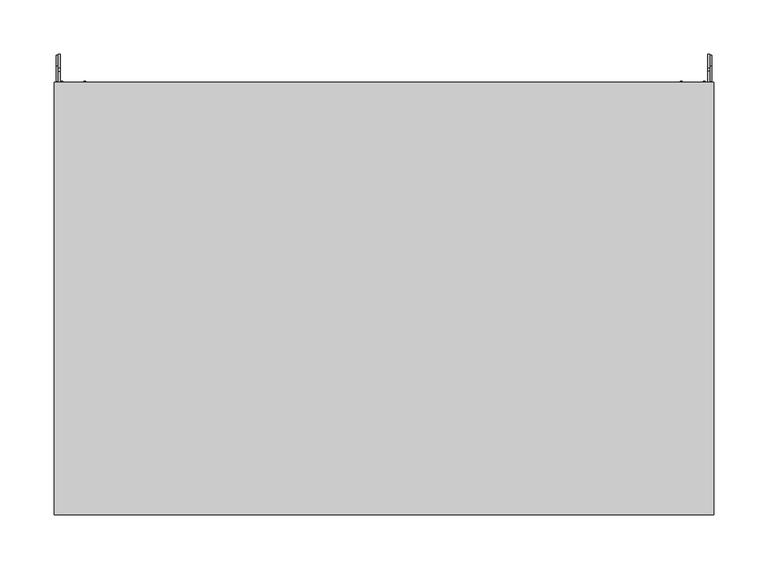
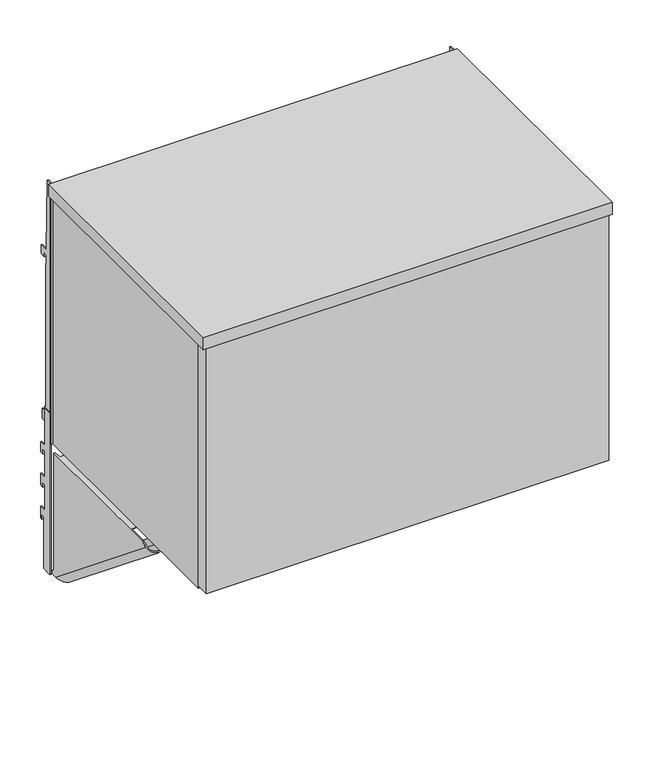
"""IFC4 building model written with IfcOpenShell, lengths in millimetres: furniture geometry, Steelcase - Universal Storage - In the Case Bin - Flat Front : For Montage - 24W."""

from ifc_helpers import new_model, si_unit, point, frame, frame_2d, origin, place, context, project, spatial, polyline, circle_curve, ellipse_curve, trimmed, segment, composite_curve, outline, extrude, faceted_brep, source, transform, mapped, element, save
from ifc_brep_helpers import plane_surface, cylinder_surface, revolved_surface, advanced_brep


def furniture_dd97acb9(model_context):
    return source(origin(), model_context, "Body", "SolidModel", [
        extrude(outline(polyline([(14.7026351, 1295.4127), (14.7026351, 1236.5862384), (24.9864881, 1236.5862384), (24.9864881, 1220.7113353), (18.8396885, 1220.7113353), (18.8396885, 1227.061311), (14.7756879, 1227.061311), (14.7756879, 1186.6498969), (24.9864881, 1186.6498969), (24.9864881, 1168.3872762), (18.8396885, 1168.3872762), (18.8396885, 1174.7373246), (14.7756879, 1174.7373246), (14.7756879, 1134.3259105), (24.9864881, 1134.3259105), (24.9864881, 1116.0632897), (21.4050888, 1116.0632897), (21.4050888, 1122.4132655), (17.3410881, 1122.4132655), (17.3410881, 1040.9809), (1.1327479, 1040.9809), (1.1327479, 1295.4127), (14.7026351, 1295.4127)])), frame((2.1844, 0.0, 0.0), z_axis=(1.0, 0.0, 0.0), x_axis=(0.0, 1.0, 0.0)), (0.0, 0.0, 1.0), 1.905),
        extrude(outline(polyline([(14.7026351, 1295.4127), (14.7026351, 1236.5862384), (24.9864881, 1236.5862384), (24.9864881, 1220.7113353), (18.8396885, 1220.7113353), (18.8396885, 1227.061311), (14.7756879, 1227.061311), (14.7756879, 1186.6498969), (24.9864881, 1186.6498969), (24.9864881, 1168.3872762), (18.8396885, 1168.3872762), (18.8396885, 1174.7373246), (14.7756879, 1174.7373246), (14.7756879, 1134.3259105), (24.9864881, 1134.3259105), (24.9864881, 1116.0632897), (21.4050888, 1116.0632897), (21.4050888, 1122.4132655), (17.3410881, 1122.4132655), (17.3410881, 1040.9809), (1.1327479, 1040.9809), (1.1327479, 1295.4127), (14.7026351, 1295.4127)])), frame((605.5106, 0.0, 0.0), z_axis=(1.0, 0.0, 0.0), x_axis=(0.0, 1.0, 0.0)), (0.0, 0.0, 1.0), 1.905),
        advanced_brep(
        [(580.5424, -230.0833372, 1233.8431), (580.5424, 1.1327479, 1046.6079738), (578.4342, 1.1327479, 1046.6079738), (578.4342, -230.0833372, 1233.8431), (578.4342, 1.1327479, 1040.9809), (578.4342, -7.7654502, 1040.9809), (578.4342, -240.6555763, 1229.5716381), (601.7006, -7.7654502, 1040.9809), (601.7006, -240.6555763, 1229.5716381), (601.7006, 1.1327479, 1040.9809), (601.7006, 1.1327479, 1046.6079738), (601.7006, -3.080512, 1050.019805), (601.7006, -3.080512, 1233.8431), (601.7006, -230.0833372, 1233.8431), (599.5924009, 1.1327479, 1046.6079738), (599.5924009, -3.080512, 1050.019805), (599.5924009, -7.7654502, 1040.9809), (599.5924009, -240.6555763, 1229.5716381), (599.5924009, -230.0833372, 1233.8431), (599.5924009, -200.311512, 1233.8431), (599.5924009, -200.311512, 1233.0049163), (599.5924009, -14.0787123, 1233.0049163), (599.5924009, -14.0787123, 1233.8431), (599.5924009, -3.080512, 1233.8431), (599.5924009, 1.1327479, 1040.9809), (580.5424, -7.7654502, 1040.9809), (580.5424, -240.6555763, 1229.5716381), (580.5424, 1.1327479, 1040.9809), (570.6617978, -200.311512, 1233.8431), (570.6617978, -200.311512, 1252.2581016), (569.8236, -200.311512, 1252.2581016), (569.8236, -200.311512, 1233.0049163), (569.8236, -82.5825138, 1252.2581016), (570.6617978, -82.5825138, 1252.2581016), (570.6617978, -82.5825138, 1233.8431), (569.8236, -82.5825138, 1233.8431), (569.8236, -14.0787123, 1233.8431), (569.8236, -14.0787123, 1233.0049163)],
        [
            (0, 1),
            (1, 2),
            (2, 3),
            (3, 0),
            (2, 4),
            (4, 5),
            (5, 6),
            (6, 3),
            (5, 7, ellipse_curve(frame((590.0674, -7.7654502, 1040.9809), z_axis=(0.0, 0.0, 1.0), x_axis=(0.0, -1.0, 0.0)), 18.4853359, 11.6332)),
            (7, 8),
            (8, 6, ellipse_curve(frame((590.0674, -240.6555763, 1229.5716381), z_axis=(0.0, 0.374606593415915, -0.9271838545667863), x_axis=(0.0, -0.9271838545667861, -0.3746065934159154)), 13.3008659, 11.6332)),
            (7, 9),
            (9, 10),
            (10, 11),
            (11, 12),
            (12, 13),
            (13, 8),
            (10, 14),
            (14, 15),
            (15, 11),
            (16, 17),
            (17, 18),
            (18, 19),
            (19, 20),
            (20, 21),
            (21, 22),
            (22, 23),
            (23, 15),
            (14, 24),
            (24, 16),
            (16, 25, ellipse_curve(frame((590.0674005, -7.7654502, 1040.9809), z_axis=(0.0, 0.0, -1.0), x_axis=(0.0, 1.0, 0.0)), 15.135374, 9.5250005)),
            (25, 26),
            (26, 17, ellipse_curve(frame((590.0674005, -240.6555763, 1229.5716381), z_axis=(0.0, -0.374606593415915, 0.9271838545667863), x_axis=(0.0, 0.9271838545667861, 0.3746065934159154)), 10.8904475, 9.5250005)),
            (0, 26),
            (25, 27),
            (27, 1),
            (13, 18),
            (24, 9),
            (4, 27),
            (28, 29),
            (29, 30),
            (30, 31),
            (31, 20),
            (19, 28),
            (32, 33),
            (33, 34),
            (34, 35),
            (35, 32),
            (35, 36),
            (36, 37),
            (37, 31),
            (30, 32),
            (28, 34),
            (33, 29),
            (36, 22),
            (21, 37),
            (12, 23),
        ],
        [
            plane_surface(frame((580.5424, -241.2702093, 1242.902052), z_axis=(0.0, 0.6293204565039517, 0.7771459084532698), x_axis=(0.0, 0.7771459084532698, -0.6293204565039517))),
            plane_surface(frame((578.4342, -241.2702093, 1242.902052), z_axis=(-1.0000000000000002, 0.0, 0.0), x_axis=(0.0, 0.7771459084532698, -0.6293204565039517))),
            cylinder_surface(frame((590.0674, 5.728998, 1030.0533094), z_axis=(0.0, -0.7771459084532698, 0.6293204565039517), x_axis=(0.0, 0.6293204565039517, 0.7771459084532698)), 11.6332),
            plane_surface(frame((601.7006, -247.5463438, 1235.1516726), z_axis=(1.0000000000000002, 0.0, 0.0), x_axis=(0.0, 0.7771459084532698, -0.6293204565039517))),
            plane_surface(frame((601.7006, -241.2702093, 1242.902052), z_axis=(0.0, 0.6293204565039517, 0.7771459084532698), x_axis=(0.0, 0.7771459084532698, -0.6293204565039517))),
            plane_surface(frame((599.5924009, -241.2702093, 1242.902052), z_axis=(-1.0000000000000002, 0.0, 0.0), x_axis=(0.0, 0.7771459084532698, -0.6293204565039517))),
            revolved_surface(polyline([(590.0674005, 7.3699238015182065, 1040.980900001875), (590.0674005, -238.76446812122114, 1240.2966349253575)]), (590.0674005, 5.728998, 1030.0533094), (0.0, 0.7771459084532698, -0.6293204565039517)),
            plane_surface(frame((580.5424, -247.5463438, 1235.1516726), z_axis=(1.0000000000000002, 0.0, 0.0), x_axis=(0.0, 0.7771459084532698, -0.6293204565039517))),
            plane_surface(frame((609.6, -257.2236519, 1222.8777011), z_axis=(0.0, -0.374606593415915, 0.9271838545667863), x_axis=(-1.0, 0.0, 0.0))),
            plane_surface(frame((609.6, 1.1327479, 1040.9809), z_axis=(0.0, 0.0, -1.0), x_axis=(-1.0, 0.0, 0.0))),
            plane_surface(frame((609.6, 1.1327479, 1053.6809), z_axis=(0.0, 1.0, 0.0), x_axis=(-1.0, 0.0, 0.0))),
            plane_surface(frame((569.8236, -200.311512, 1252.2581016), z_axis=(0.0, -1.0, 0.0), x_axis=(0.0, 0.0, -1.0))),
            plane_surface(frame((569.8236, -82.5825138, 1252.2581016), z_axis=(0.0, 1.0, 0.0), x_axis=(0.0, 0.0, 1.0))),
            plane_surface(frame((569.8236, -200.311512, 1252.2581016), z_axis=(-1.0, 0.0, 0.0), x_axis=(0.0, 1.0, 0.0))),
            plane_surface(frame((570.6617978, -200.311512, 1233.8431), z_axis=(1.0, 0.0, 0.0), x_axis=(0.0, 1.0, 0.0))),
            plane_surface(frame((570.6617978, -200.311512, 1252.2581016), z_axis=(0.0, 0.0, 1.0), x_axis=(0.0, 1.0, 0.0))),
            plane_surface(frame((569.8236, -14.0787123, 1233.8431), z_axis=(0.0, 1.0, 0.0), x_axis=(0.0, 0.0, 1.0))),
            plane_surface(frame((569.8236, -200.311512, 1233.0049163), z_axis=(0.0, 0.0, -1.0), x_axis=(0.0, 1.0, 0.0))),
            plane_surface(frame((601.7006, -200.311512, 1233.8431), z_axis=(0.0, 0.0, 1.0), x_axis=(0.0, 1.0, 0.0))),
            plane_surface(frame((601.7006, -3.080512, 1050.019805), z_axis=(0.0, 1.0, 0.0), x_axis=(-1.0, 0.0, 0.0))),
        ],
        [
            (0, [[1, 2, 3, 4]]),
            (1, [[-3, 5, 6, 7, 8]]),
            (2, [[-7, 9, 10, 11]]),
            (3, [[-10, 12, 13, 14, 15, 16, 17]]),
            (4, [[18, 19, 20, -14]]),
            (5, [[21, 22, 23, 24, 25, 26, 27, 28, -19, 29, 30]]),
            (6, [[-21, 31, 32, 33]]),
            (7, [[-1, 34, -32, 35, 36]]),
            (8, [[-4, -8, -11, -17, 37, -22, -33, -34]]),
            (9, [[38, -12, -9, -6, 39, -35, -31, -30]]),
            (10, [[-38, -29, -18, -13]]),
            (10, [[-39, -5, -2, -36]]),
            (11, [[40, 41, 42, 43, -24, 44]]),
            (12, [[45, 46, 47, 48]]),
            (13, [[-48, 49, 50, 51, -42, 52]]),
            (14, [[-40, 53, -46, 54]]),
            (15, [[-41, -54, -45, -52]]),
            (16, [[-50, 55, -26, 56]]),
            (17, [[-51, -56, -25, -43]]),
            (18, [[57, -27, -55, -49, -47, -53, -44, -23, -37, -16]]),
            (19, [[-15, -20, -28, -57]]),
        ],
    ),
        advanced_brep(
        [(8.1026, -3.080512, 1050.019805), (8.1026, -3.080512, 1233.8431), (8.1026, -14.0787123, 1233.8431), (8.1026, -14.0787123, 1233.0049163), (8.1026, -200.311512, 1233.0049163), (8.1026, -200.311512, 1233.8431), (8.1026, -230.0833372, 1233.8431), (8.1026, -240.6555763, 1229.5716381), (8.1026, -7.7654502, 1040.9809), (8.1026, 1.1327479, 1040.9809), (8.1026, 1.1327479, 1046.6079738), (5.9944, -3.080512, 1233.8431), (5.9944, -3.080512, 1050.019805), (5.9944, 1.1327479, 1046.6079738), (5.9944, 1.1327479, 1040.9809), (5.9944, -7.7654502, 1040.9809), (5.9944, -240.6555763, 1229.5716381), (5.9944, -230.0833372, 1233.8431), (39.5732022, -200.311512, 1233.8431), (39.5732022, -82.5825138, 1233.8431), (40.4114, -82.5825138, 1233.8431), (40.4114, -14.0787123, 1233.8431), (29.2608, -7.7654502, 1040.9809), (29.2608, -240.6555763, 1229.5716381), (29.2608, 1.1327479, 1040.9809), (29.2608, 1.1327479, 1046.6079738), (29.2608, -230.0833372, 1233.8431), (27.1526009, 1.1327479, 1046.6079738), (27.1526009, -230.0833372, 1233.8431), (27.1526009, 1.1327479, 1040.9809), (27.1526009, -7.7654502, 1040.9809), (27.1526009, -240.6555763, 1229.5716381), (40.4114, -200.311512, 1233.0049163), (40.4114, -200.311512, 1252.2581016), (39.5732022, -200.311512, 1252.2581016), (40.4114, -14.0787123, 1233.0049163), (40.4114, -82.5825138, 1252.2581016), (39.5732022, -82.5825138, 1252.2581016)],
        [
            (0, 1),
            (1, 2),
            (2, 3),
            (3, 4),
            (4, 5),
            (5, 6),
            (6, 7),
            (7, 8),
            (8, 9),
            (9, 10),
            (10, 0),
            (11, 12),
            (12, 13),
            (13, 14),
            (14, 15),
            (15, 16),
            (16, 17),
            (17, 11),
            (17, 6),
            (5, 18),
            (18, 19),
            (19, 20),
            (20, 21),
            (21, 2),
            (1, 11),
            (0, 12),
            (10, 13),
            (15, 22, ellipse_curve(frame((17.6276, -7.7654502, 1040.9809), z_axis=(0.0, 0.0, 1.0), x_axis=(0.0, -1.0, 0.0)), 18.4853359, 11.6332)),
            (22, 23),
            (23, 16, ellipse_curve(frame((17.6276, -240.6555763, 1229.5716381), z_axis=(0.0, 0.374606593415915, -0.9271838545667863), x_axis=(0.0, -0.9271838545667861, -0.3746065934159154)), 13.3008659, 11.6332)),
            (22, 24),
            (24, 25),
            (25, 26),
            (26, 23),
            (25, 27),
            (27, 28),
            (28, 26),
            (27, 29),
            (29, 30),
            (30, 31),
            (31, 28),
            (7, 31, ellipse_curve(frame((17.6276005, -240.6555763, 1229.5716381), z_axis=(0.0, -0.374606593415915, 0.9271838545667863), x_axis=(0.0, 0.9271838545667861, 0.3746065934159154)), 10.8904475, 9.5250005)),
            (30, 8, ellipse_curve(frame((17.6276005, -7.7654502, 1040.9809), z_axis=(0.0, 0.0, -1.0), x_axis=(0.0, 1.0, 0.0)), 15.135374, 9.5250005)),
            (14, 9),
            (29, 24),
            (4, 32),
            (32, 33),
            (33, 34),
            (34, 18),
            (21, 35),
            (35, 3),
            (35, 32),
            (20, 36),
            (36, 33),
            (19, 37),
            (37, 36),
            (37, 34),
        ],
        [
            plane_surface(frame((8.1026, -230.0833372, 1233.8431), z_axis=(1.0, 0.0, 0.0), x_axis=(0.0, -1.0, 0.0))),
            plane_surface(frame((5.9944, -230.0833372, 1233.8431), z_axis=(-1.0, 0.0, 0.0), x_axis=(0.0, 1.0, 0.0))),
            plane_surface(frame((8.1026, -3.080512, 1233.8431), z_axis=(0.0, 0.0, 1.0), x_axis=(-1.0, 0.0, 0.0))),
            plane_surface(frame((8.1026, -3.080512, 1050.019805), z_axis=(0.0, 1.0, 0.0), x_axis=(-1.0, 0.0, 0.0))),
            plane_surface(frame((8.1026, -241.2702093, 1242.902052), z_axis=(0.0, 0.6293204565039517, 0.7771459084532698), x_axis=(0.0, 0.7771459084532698, -0.6293204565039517))),
            cylinder_surface(frame((17.6276, 5.728998, 1030.0533094), z_axis=(0.0, -0.7771459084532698, 0.6293204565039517), x_axis=(1.0, 0.0, 0.0)), 11.6332),
            plane_surface(frame((29.2608, -247.5463438, 1235.1516726), z_axis=(1.0000000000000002, 0.0, 0.0), x_axis=(0.0, 0.7771459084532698, -0.6293204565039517))),
            plane_surface(frame((29.2608, -241.2702093, 1242.902052), z_axis=(0.0, 0.6293204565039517, 0.7771459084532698), x_axis=(0.0, 0.7771459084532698, -0.6293204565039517))),
            plane_surface(frame((27.1526009, -241.2702093, 1242.902052), z_axis=(-1.0000000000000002, 0.0, 0.0), x_axis=(0.0, 0.7771459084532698, -0.6293204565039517))),
            revolved_surface(polyline([(27.152601, 1.375646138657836, 1033.5785848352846), (27.152601, -244.75874578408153, 1232.8943197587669)]), (17.6276005, 5.728998, 1030.0533094), (0.0, 0.7771459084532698, -0.6293204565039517)),
            plane_surface(frame((609.6, -257.2236519, 1222.8777011), z_axis=(0.0, -0.374606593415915, 0.9271838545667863), x_axis=(-1.0, 0.0, 0.0))),
            plane_surface(frame((609.6, 1.1327479, 1040.9809), z_axis=(0.0, 0.0, -1.0), x_axis=(-1.0, 0.0, 0.0))),
            plane_surface(frame((609.6, 1.1327479, 1053.6809), z_axis=(0.0, 1.0, 0.0), x_axis=(-1.0, 0.0, 0.0))),
            plane_surface(frame((10.5986151, -200.311512, 1233.8431), z_axis=(0.0, -1.0, 0.0), x_axis=(-1.0, 0.0, 0.0))),
            plane_surface(frame((10.5986151, -14.0787123, 1233.8431), z_axis=(0.0, 1.0, 0.0), x_axis=(1.0, 0.0, 0.0))),
            plane_surface(frame((8.1026, -200.311512, 1233.0049163), z_axis=(0.0, 0.0, -1.0), x_axis=(0.0, 1.0, 0.0))),
            plane_surface(frame((40.4114, -200.311512, 1233.0049163), z_axis=(1.0, 0.0, 0.0), x_axis=(0.0, 1.0, 0.0))),
            plane_surface(frame((38.1509305, -82.5825138, 1252.2581016), z_axis=(0.0, 1.0, 0.0), x_axis=(1.0, 0.0, 0.0))),
            plane_surface(frame((40.4114, -200.311512, 1252.2581016), z_axis=(0.0, 0.0, 1.0), x_axis=(0.0, 1.0, 0.0))),
            plane_surface(frame((39.5732022, -200.311512, 1252.2581016), z_axis=(-1.0, 0.0, 0.0), x_axis=(0.0, 1.0, 0.0))),
        ],
        [
            (0, [[1, 2, 3, 4, 5, 6, 7, 8, 9, 10, 11]]),
            (1, [[12, 13, 14, 15, 16, 17, 18]]),
            (2, [[-18, 19, -6, 20, 21, 22, 23, 24, -2, 25]]),
            (3, [[-1, 26, -12, -25]]),
            (4, [[-26, -11, 27, -13]]),
            (5, [[-16, 28, 29, 30]]),
            (6, [[-29, 31, 32, 33, 34]]),
            (7, [[-33, 35, 36, 37]]),
            (8, [[-36, 38, 39, 40, 41]]),
            (9, [[-8, 42, -40, 43]]),
            (10, [[-7, -19, -17, -30, -34, -37, -41, -42]]),
            (11, [[44, -9, -43, -39, 45, -31, -28, -15]]),
            (12, [[-44, -14, -27, -10]]),
            (12, [[-45, -38, -35, -32]]),
            (13, [[46, 47, 48, 49, -20, -5]]),
            (14, [[50, 51, -3, -24]]),
            (15, [[-46, -4, -51, 52]]),
            (16, [[-47, -52, -50, -23, 53, 54]]),
            (17, [[-53, -22, 55, 56]]),
            (18, [[-48, -54, -56, 57]]),
            (19, [[-49, -57, -55, -21]]),
        ],
    ),
        faceted_brep([(590.6516023, -9.7789998, 1640.3955), (590.6516023, -9.7789998, 1652.2572326), (590.6516023, -10.6172003, 1652.2572326), (590.6516023, -10.6172003, 1639.557281), (590.6516023, -0.8382, 1639.557281), (590.6516023, -0.8382266, 1640.3955), (17.0434001, -9.7789998, 1640.3955), (17.0434001, -0.8382, 1640.3955), (17.0434001, -0.8382011, 1639.557281), (17.0434001, -10.6172003, 1639.557281), (17.0434001, -10.6172003, 1652.2572326), (17.0434001, -9.7789998, 1652.2572326), (593.2837557, -30.9238769, 1640.3955), (594.1187599, -30.850824, 1640.3955), (591.4930117, -0.8382, 1640.3955), (605.5106, -0.8382, 1640.3955), (605.5106, 0.1784978, 1640.3955), (2.1844, 0.1784978, 1640.3955), (2.1844, -0.8382, 1640.3955), (16.2019988, -0.8382, 1640.3955), (13.5762335, -30.850824, 1640.3955), (14.4176356, -30.850824, 1640.3955), (605.5106, 0.1784978, 1247.9655), (605.5106, -0.8382, 1247.9655), (591.4930117, -0.8382, 1247.9655), (594.1187599, -30.850824, 1247.9655), (593.2837557, -30.9238769, 1247.9655), (590.6516, -0.8382, 1247.9655), (17.0434002, -0.8382, 1247.9655), (14.4176356, -30.850824, 1247.9655), (13.5762335, -30.850824, 1247.9655), (16.2019988, -0.8382, 1247.9655), (2.1844, -0.8382, 1247.9655), (2.1844, 0.1784978, 1247.9655)], [[[0, 1, 2, 3, 4, 5]], [[6, 7, 8, 9, 10, 11]], [[1, 0, 6, 11]], [[2, 1, 11, 10]], [[3, 2, 10, 9]], [[4, 3, 9, 8]], [[0, 5, 12, 13, 14, 15, 16, 17, 18, 19, 20, 21, 7, 6]], [[22, 23, 24, 25, 26, 27, 28, 29, 30, 31, 32, 33]], [[17, 16, 22, 33]], [[18, 17, 33, 32]], [[19, 18, 32, 31]], [[20, 19, 31, 30]], [[21, 20, 30, 29]], [[7, 21, 29, 28, 8]], [[28, 27, 4, 8]], [[12, 5, 4, 27, 26]], [[13, 12, 26, 25]], [[14, 13, 25, 24]], [[15, 14, 24, 23]], [[16, 15, 23, 22]]]),
        faceted_brep([(574.1415999, -61.4680004, 1256.4236903), (574.1415999, -61.4680004, 1248.8037), (574.1415999, -60.6298021, 1248.8037), (574.1415999, -60.6298021, 1256.4236903), (33.5534002, -61.4680004, 1256.4236903), (33.5534002, -60.6298021, 1256.4236903), (33.5534002, -60.6298021, 1248.8037), (33.5534002, -61.468, 1248.8037), (17.0434001, -61.4680004, 1248.8037), (17.0434001, -61.4680004, 1247.9655), (590.6516023, -61.4680004, 1247.9655), (590.6516023, -61.4680004, 1248.8037), (590.6516023, -0.8382, 1247.9655), (590.6516023, -0.8382, 1248.8037), (17.0434001, -0.8382, 1248.8037), (17.0434001, -0.8382, 1247.9655)], [[[0, 1, 2, 3]], [[4, 5, 6, 7]], [[1, 0, 4, 7, 8, 9, 10, 11]], [[3, 2, 6, 5]], [[0, 3, 5, 4]], [[11, 10, 12, 13]], [[8, 14, 15, 9]], [[12, 10, 9, 15]], [[13, 12, 15, 14]], [[11, 13, 14, 8, 7, 6, 2, 1]]]),
        extrude(outline(composite_curve([segment(polyline([(-343.4401318, 1291.8437595), (-377.213238, 1291.8437595), (-377.213238, 1639.09375), (-30.850824, 1639.09375), (-30.850824, 1638.0577444), (-372.9486617, 1638.0577444)]), True, "CONTINUOUS"), segment(trimmed(circle_curve(frame_2d((-372.9486617, 1635.1839261)), 2.8738183), [point((-372.9486617, 1638.0577444))], [point((-375.82248, 1635.1839261))], True, "CARTESIAN"), True, "CONTINUOUS"), segment(polyline([(-375.82248, 1635.1839261), (-375.82248, 1292.9867129), (-343.4401318, 1292.9867129), (-343.4401318, 1291.8437595)]), True, "CONTINUOUS")], self_intersect=False)), frame((296.5266311, 0.0, 0.0), z_axis=(1.0, 0.0, 0.0), x_axis=(0.0, 1.0, 0.0)), (0.0, 0.0, 1.0), 16.5467378),
        extrude(outline(polyline([(609.6, -399.4977324), (0.0, -399.4977324), (0.0, 0.0), (609.6, 0.0), (609.6, -399.4977324)])), frame((0.0, 0.0, 1639.490625), z_axis=(0.0, 0.0, 1.0), x_axis=(1.0, 0.0, 0.0)), (0.0, 0.0, 1.0), 19.05),
        extrude(outline(polyline([(4.4448587, -378.8585852), (605.1703, -378.8585852), (605.1703, -399.0261526), (4.4448587, -399.0261526), (4.4448587, -378.8585852)])), frame((0.0, 0.0, 1253.2134107), z_axis=(0.0, 0.0, 1.0), x_axis=(1.0, 0.0, 0.0)), (0.0, 0.0, 1.0), 386.3690475),
        extrude(outline(polyline([(0.0, 1657.096), (10.1677703, 1657.096), (13.3857995, 1545.8185744), (26.0095997, 1545.8185744), (26.0095997, 1532.1025512), (17.5768, 1532.1025512), (17.5768, 1537.1064608), (13.3349998, 1537.1064608), (13.3349998, 1522.6538546), (14.2747998, 1522.6538546), (14.2747998, 1296.0858527), (17.2466001, 1296.0858527), (17.2466001, 1289.7358043), (22.5806007, 1289.7358043), (22.5806007, 1274.2164027), (0.0, 1274.2164027), (0.0, 1657.096)])), frame((604.0882, 0.0, 0.0), z_axis=(1.0, 0.0, 0.0), x_axis=(0.0, 1.0, 0.0)), (0.0, 0.0, 1.0), 1.905),
        extrude(outline(polyline([(15.875, -377.213238), (5.5118, -377.213238), (5.5118, 0.0), (15.875, 0.0), (15.875, -377.213238)])), frame((0.0, 0.0, 1247.9655), z_axis=(0.0, 0.0, 1.0), x_axis=(1.0, 0.0, 0.0)), (0.0, 0.0, 1.0), 391.2710707),
        extrude(outline(polyline([(608.4568665, -377.213238), (593.725, -377.213238), (593.725, 0.0), (608.4568665, 0.0), (608.4568665, -377.213238)])), frame((0.0, 0.0, 1247.9655), z_axis=(0.0, 0.0, 1.0), x_axis=(1.0, 0.0, 0.0)), (0.0, 0.0, 1.0), 391.2710707),
        extrude(outline(polyline([(0.0, 1657.096), (10.1677703, 1657.096), (13.3857995, 1545.8185744), (26.0095997, 1545.8185744), (26.0095997, 1532.1025512), (17.5768, 1532.1025512), (17.5768, 1537.1064608), (13.3349998, 1537.1064608), (13.3349998, 1522.6538546), (14.2747998, 1522.6538546), (14.2747998, 1296.0858527), (17.2466001, 1296.0858527), (17.2466001, 1289.7358043), (22.5806007, 1289.7358043), (22.5806007, 1274.2164027), (0.0, 1274.2164027), (0.0, 1657.096)])), frame((3.6068, 0.0, 0.0), z_axis=(1.0, 0.0, 0.0), x_axis=(0.0, 1.0, 0.0)), (0.0, 0.0, 1.0), 1.905),
        extrude(outline(polyline([(-35.4584098, 1372.819257), (-27.0763996, 1372.819257), (-27.0763996, 1360.1191601), (-33.4264117, 1360.1191601), (-33.4264117, 1323.1622589), (-27.0763996, 1323.1622589), (-27.0763996, 1265.428), (-35.4584098, 1265.428), (-35.4584098, 1293.054213), (-46.1263996, 1293.054213), (-46.1263996, 1268.1875622), (-59.9694137, 1268.1875622), (-59.9694137, 1294.8575912), (-332.8542818, 1294.8575912), (-332.8542818, 1268.1875622), (-377.3042823, 1268.1875622), (-377.3042823, 1310.7072052), (-35.4584098, 1310.7072052), (-35.4584098, 1372.819257)])), frame((15.875, 0.0, 0.0), z_axis=(1.0, 0.0, 0.0), x_axis=(0.0, 1.0, 0.0)), (0.0, 0.0, 1.0), 577.85),
    ])


if __name__ == "__main__":
    model = new_model("IFC4")
    model_context = context("Model", 3, world=origin())
    ifc_project = project(units=[si_unit("LENGTHUNIT", "METRE", prefix="MILLI")], contexts=[model_context])
    site = spatial("IfcSite", under=ifc_project)
    building = spatial("IfcBuilding", under=site)
    placement = place(None, origin())
    furniture_shape = furniture_dd97acb9(model_context)
    element("IfcFurniture", 1, ObjectType="Steelcase - Universal Storage - In the Case Bin - Flat Front : For Montage - 24W", at=placement, inside=building, context=model_context, shape_type="MappedRepresentation", body=[
        mapped(furniture_shape, transform((0.0, 0.0, 0.0), x_axis=(1.0, 0.0, 0.0), y_axis=(0.0, 1.0, 0.0), z_axis=(0.0, 0.0, 1.0))),
    ])
    save(model, "model.ifc")
